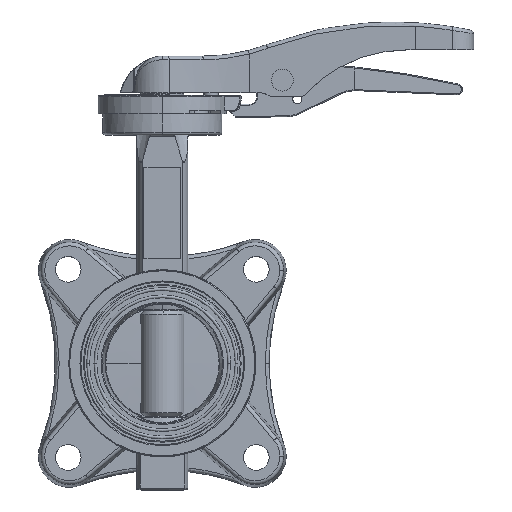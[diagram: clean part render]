
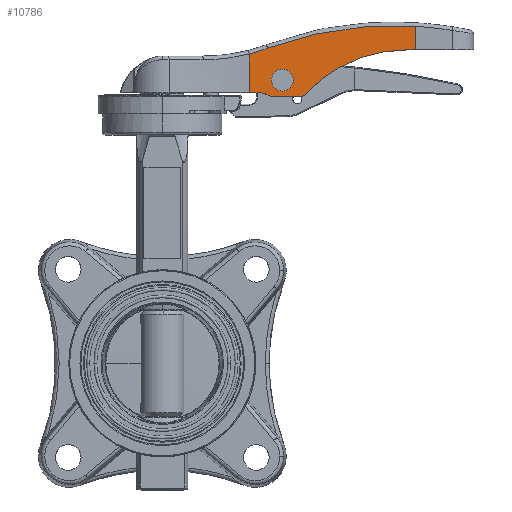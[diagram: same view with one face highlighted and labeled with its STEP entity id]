
A CAD part, top view. The second image highlights one B-rep face of the part: STEP entity #10786.
In plain terms, the highlighted planar face has unit normal (0, 0, 1).
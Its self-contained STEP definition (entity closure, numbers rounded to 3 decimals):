
#473 = VECTOR ( 'NONE', #25282, 1000. ) ;
#803 = DIRECTION ( 'NONE',  ( 0., 0., -1. ) ) ;
#1131 = EDGE_CURVE ( 'NONE', #37369, #5096, #46636, .T. ) ;
#1385 = CARTESIAN_POINT ( 'NONE',  ( 133.257, 170.9, 11.75 ) ) ;
#1485 = DIRECTION ( 'NONE',  ( -1., 0., 0. ) ) ;
#1625 = CIRCLE ( 'NONE', #3209, 10. ) ;
#1830 = DIRECTION ( 'NONE',  ( 0., 0., -1. ) ) ;
#2029 = CARTESIAN_POINT ( 'NONE',  ( 77.877, 146.477, 11.75 ) ) ;
#2724 = CIRCLE ( 'NONE', #15824, 198. ) ;
#2749 = EDGE_CURVE ( 'NONE', #19231, #3954, #27883, .T. ) ;
#2949 = EDGE_CURVE ( 'NONE', #46066, #34912, #15437, .T. ) ;
#3198 = DIRECTION ( 'NONE',  ( -1., 0., 0. ) ) ;
#3209 = AXIS2_PLACEMENT_3D ( 'NONE', #5228, #19165, #1485 ) ;
#3577 = CIRCLE ( 'NONE', #28565, 75. ) ;
#3954 = VERTEX_POINT ( 'NONE', #1385 ) ;
#4412 = DIRECTION ( 'NONE',  ( -1., 0., 0. ) ) ;
#4819 = ORIENTED_EDGE ( 'NONE', *, *, #24178, .F. ) ;
#5057 = DIRECTION ( 'NONE',  ( -0.866, 0.5, 0. ) ) ;
#5096 = VERTEX_POINT ( 'NONE', #29307 ) ;
#5228 = CARTESIAN_POINT ( 'NONE',  ( 52.856, 137.5, 11.75 ) ) ;
#5484 = CARTESIAN_POINT ( 'NONE',  ( 133.257, 95.9, 11.75 ) ) ;
#5589 = FACE_BOUND ( 'NONE', #10039, .T. ) ;
#5920 = ORIENTED_EDGE ( 'NONE', *, *, #6181, .T. ) ;
#5991 = VERTEX_POINT ( 'NONE', #15750 ) ;
#6181 = EDGE_CURVE ( 'NONE', #37786, #15979, #2724, .T. ) ;
#6338 = EDGE_CURVE ( 'NONE', #16174, #5991, #9511, .T. ) ;
#7284 = CARTESIAN_POINT ( 'NONE',  ( 47.444, 168.724, 11.75 ) ) ;
#7409 = LINE ( 'NONE', #16925, #18192 ) ;
#8118 = CARTESIAN_POINT ( 'NONE',  ( 138., 183.74, 11.75 ) ) ;
#8365 = CARTESIAN_POINT ( 'NONE',  ( 138., 170.9, 11.75 ) ) ;
#8647 = DIRECTION ( 'NONE',  ( -1., 0., 0. ) ) ;
#9111 = DIRECTION ( 'NONE',  ( 0., 0., 1. ) ) ;
#9435 = CARTESIAN_POINT ( 'NONE',  ( 57.856, 146.16, 11.75 ) ) ;
#9511 = LINE ( 'NONE', #22345, #24791 ) ;
#10039 = EDGE_LOOP ( 'NONE', ( #38297, #22958 ) ) ;
#10049 = DIRECTION ( 'NONE',  ( 0., 0., 1. ) ) ;
#10117 = ORIENTED_EDGE ( 'NONE', *, *, #21990, .F. ) ;
#10208 = DIRECTION ( 'NONE',  ( -1., 0., 0. ) ) ;
#10786 = ADVANCED_FACE ( 'NONE', ( #18643, #5589 ), #37942, .F. ) ;
#11899 = DIRECTION ( 'NONE',  ( -1., 0., 0. ) ) ;
#12038 = CARTESIAN_POINT ( 'NONE',  ( 65.5, 154.4, 11.75 ) ) ;
#12326 = VERTEX_POINT ( 'NONE', #35966 ) ;
#12682 = DIRECTION ( 'NONE',  ( -1., 0., 0. ) ) ;
#13502 = AXIS2_PLACEMENT_3D ( 'NONE', #16208, #1830, #19531 ) ;
#13837 = EDGE_CURVE ( 'NONE', #5096, #37369, #17290, .T. ) ;
#14660 = CARTESIAN_POINT ( 'NONE',  ( 59.5, 154.4, 11.75 ) ) ;
#15089 = CARTESIAN_POINT ( 'NONE',  ( 47.444, 170.9, 11.75 ) ) ;
#15173 = AXIS2_PLACEMENT_3D ( 'NONE', #12038, #41238, #12682 ) ;
#15437 = CIRCLE ( 'NONE', #42146, 3. ) ;
#15643 = CARTESIAN_POINT ( 'NONE',  ( 126., -13.897, 11.75 ) ) ;
#15750 = CARTESIAN_POINT ( 'NONE',  ( 47.444, 147.5, 11.75 ) ) ;
#15824 = AXIS2_PLACEMENT_3D ( 'NONE', #15643, #37987, #8647 ) ;
#15979 = VERTEX_POINT ( 'NONE', #45199 ) ;
#16174 = VERTEX_POINT ( 'NONE', #7284 ) ;
#16208 = CARTESIAN_POINT ( 'NONE',  ( 47.444, 232.9, 11.75 ) ) ;
#16525 = DIRECTION ( 'NONE',  ( -1., 0., 0. ) ) ;
#16925 = CARTESIAN_POINT ( 'NONE',  ( 47.444, 145.5, 11.75 ) ) ;
#17009 = ORIENTED_EDGE ( 'NONE', *, *, #38318, .F. ) ;
#17290 = CIRCLE ( 'NONE', #19683, 6. ) ;
#18192 = VECTOR ( 'NONE', #43405, 1000. ) ;
#18238 = VECTOR ( 'NONE', #11899, 1000. ) ;
#18643 = FACE_OUTER_BOUND ( 'NONE', #25309, .T. ) ;
#19165 = DIRECTION ( 'NONE',  ( 0., 0., 1. ) ) ;
#19231 = VERTEX_POINT ( 'NONE', #8365 ) ;
#19531 = DIRECTION ( 'NONE',  ( -1., 0., 0. ) ) ;
#19631 = AXIS2_PLACEMENT_3D ( 'NONE', #37393, #803, #4412 ) ;
#19649 = CARTESIAN_POINT ( 'NONE',  ( 58.304, 145.902, 11.75 ) ) ;
#19683 = AXIS2_PLACEMENT_3D ( 'NONE', #27304, #34599, #16525 ) ;
#20650 = CARTESIAN_POINT ( 'NONE',  ( 59.804, 148.5, 11.75 ) ) ;
#20823 = EDGE_CURVE ( 'NONE', #15979, #16174, #38552, .T. ) ;
#21139 = ORIENTED_EDGE ( 'NONE', *, *, #31706, .F. ) ;
#21210 = LINE ( 'NONE', #36723, #26935 ) ;
#21990 = EDGE_CURVE ( 'NONE', #37786, #19231, #23631, .T. ) ;
#22345 = CARTESIAN_POINT ( 'NONE',  ( 47.444, 232.9, 11.75 ) ) ;
#22958 = ORIENTED_EDGE ( 'NONE', *, *, #13837, .T. ) ;
#23631 = LINE ( 'NONE', #39741, #473 ) ;
#24178 = EDGE_CURVE ( 'NONE', #12326, #5991, #21210, .T. ) ;
#24203 = CARTESIAN_POINT ( 'NONE',  ( 75.661, 145.5, 11.75 ) ) ;
#24316 = VECTOR ( 'NONE', #5057, 1000. ) ;
#24791 = VECTOR ( 'NONE', #43961, 1000. ) ;
#25282 = DIRECTION ( 'NONE',  ( 0., -1., 0. ) ) ;
#25309 = EDGE_LOOP ( 'NONE', ( #21139, #46141, #36602, #35168, #10117, #5920, #30745, #44540, #4819, #17009, #34476, #28556 ) ) ;
#25509 = CIRCLE ( 'NONE', #38481, 3. ) ;
#25696 = EDGE_CURVE ( 'NONE', #3954, #34912, #3577, .T. ) ;
#25757 = VERTEX_POINT ( 'NONE', #9435 ) ;
#25765 = DIRECTION ( 'NONE',  ( -1., 0., 0. ) ) ;
#26766 = CARTESIAN_POINT ( 'NONE',  ( 12.488, 172.354, 11.75 ) ) ;
#26935 = VECTOR ( 'NONE', #25765, 1000. ) ;
#27304 = CARTESIAN_POINT ( 'NONE',  ( 65.5, 154.4, 11.75 ) ) ;
#27883 = LINE ( 'NONE', #15089, #18238 ) ;
#28556 = ORIENTED_EDGE ( 'NONE', *, *, #32141, .T. ) ;
#28565 = AXIS2_PLACEMENT_3D ( 'NONE', #5484, #9111, #34489 ) ;
#29307 = CARTESIAN_POINT ( 'NONE',  ( 71.5, 154.4, 11.75 ) ) ;
#30745 = ORIENTED_EDGE ( 'NONE', *, *, #20823, .T. ) ;
#31096 = LINE ( 'NONE', #26766, #24316 ) ;
#31671 = CARTESIAN_POINT ( 'NONE',  ( 75.661, 148.5, 11.75 ) ) ;
#31706 = EDGE_CURVE ( 'NONE', #46066, #37709, #7409, .T. ) ;
#32141 = EDGE_CURVE ( 'NONE', #38337, #37709, #25509, .T. ) ;
#32982 = EDGE_CURVE ( 'NONE', #38337, #25757, #31096, .T. ) ;
#34476 = ORIENTED_EDGE ( 'NONE', *, *, #32982, .F. ) ;
#34489 = DIRECTION ( 'NONE',  ( -1., 0., 0. ) ) ;
#34599 = DIRECTION ( 'NONE',  ( 0., 0., -1. ) ) ;
#34912 = VERTEX_POINT ( 'NONE', #2029 ) ;
#35168 = ORIENTED_EDGE ( 'NONE', *, *, #2749, .F. ) ;
#35966 = CARTESIAN_POINT ( 'NONE',  ( 52.856, 147.5, 11.75 ) ) ;
#36602 = ORIENTED_EDGE ( 'NONE', *, *, #25696, .F. ) ;
#36723 = CARTESIAN_POINT ( 'NONE',  ( 47.444, 147.5, 11.75 ) ) ;
#37369 = VERTEX_POINT ( 'NONE', #14660 ) ;
#37393 = CARTESIAN_POINT ( 'NONE',  ( 22., 267.5, 11.75 ) ) ;
#37709 = VERTEX_POINT ( 'NONE', #39879 ) ;
#37786 = VERTEX_POINT ( 'NONE', #8118 ) ;
#37942 = PLANE ( 'NONE',  #13502 ) ;
#37987 = DIRECTION ( 'NONE',  ( 0., 0., 1. ) ) ;
#38297 = ORIENTED_EDGE ( 'NONE', *, *, #1131, .T. ) ;
#38318 = EDGE_CURVE ( 'NONE', #25757, #12326, #1625, .T. ) ;
#38337 = VERTEX_POINT ( 'NONE', #19649 ) ;
#38481 = AXIS2_PLACEMENT_3D ( 'NONE', #20650, #10049, #10208 ) ;
#38552 = CIRCLE ( 'NONE', #19631, 102. ) ;
#39741 = CARTESIAN_POINT ( 'NONE',  ( 138., 232.9, 11.75 ) ) ;
#39879 = CARTESIAN_POINT ( 'NONE',  ( 59.804, 145.5, 11.75 ) ) ;
#41238 = DIRECTION ( 'NONE',  ( 0., 0., -1. ) ) ;
#42146 = AXIS2_PLACEMENT_3D ( 'NONE', #31671, #45805, #3198 ) ;
#43405 = DIRECTION ( 'NONE',  ( -1., 0., 0. ) ) ;
#43961 = DIRECTION ( 'NONE',  ( 0., -1., 0. ) ) ;
#44540 = ORIENTED_EDGE ( 'NONE', *, *, #6338, .T. ) ;
#45199 = CARTESIAN_POINT ( 'NONE',  ( 57.36, 171.825, 11.75 ) ) ;
#45805 = DIRECTION ( 'NONE',  ( 0., 0., 1. ) ) ;
#46066 = VERTEX_POINT ( 'NONE', #24203 ) ;
#46141 = ORIENTED_EDGE ( 'NONE', *, *, #2949, .T. ) ;
#46636 = CIRCLE ( 'NONE', #15173, 6. ) ;
